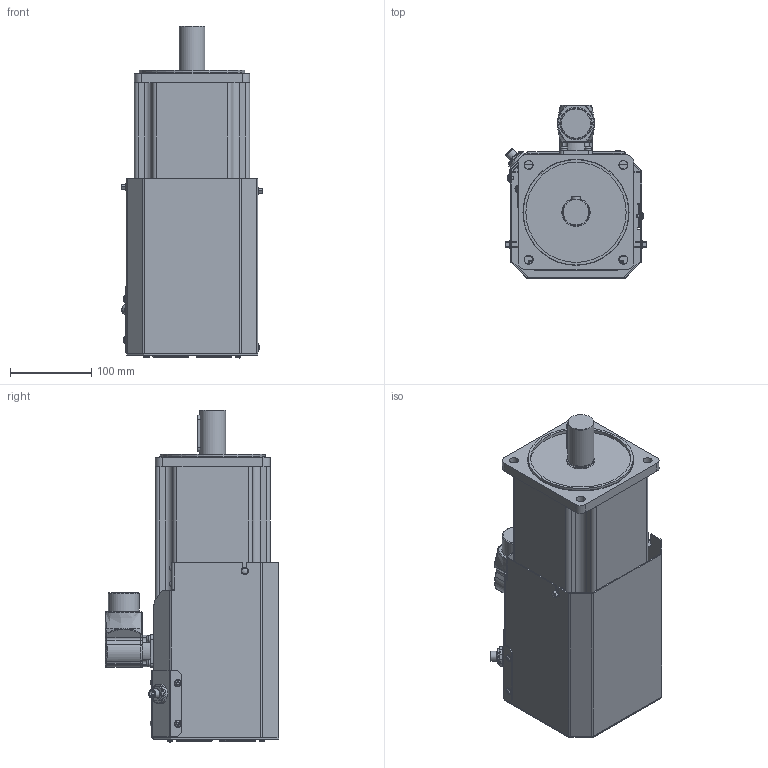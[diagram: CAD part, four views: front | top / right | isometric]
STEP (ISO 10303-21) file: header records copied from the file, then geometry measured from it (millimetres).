
FILE_DESCRIPTION(/* description */ (''),/* implementation_level */ '2;1');
FILE_NAME(/* name */ 'C:\Autodesk Vault\AUTODESK_VAULT\CAD\000-FERTIG Motors\BM140\_Gesamtbaugruppen\vereinfachte_Modelle\Lüfter\AM8062-xR1B-xxx0.stp',/* time_stamp */ '2016-11-08T11:38:56+01:00',/* author */ ('JohannesD'),/* organization */ ('FERTIG Motors '),/* preprocessor_version */ 'ST-DEVELOPER v16.1',/* originating_system */ 'Autodesk Inventor 2016',/* authorisation */ '');
FILE_SCHEMA (('CONFIG_CONTROL_DESIGN'));
Products named in the file (5): Intercontec-CED_271_0020_VM; DIN 6885 - A 10 x 8 x 45; BM140-VM-00; BM140Lüfter-VM; BM140-S-B0_VM_Lüfter_RV2016
Assembly tree (4 placements, depth 2):
  BM140-S-B0_VM_Lüfter_RV2016
    Intercontec-CED_271_0020_VM
    DIN 6885 - A 10 x 8 x 45
    BM140-VM-00
    BM140Lüfter-VM
Bounding box: 174.51 x 214.12 x 409.5 mm (x, y, z)
Volume: 5719260.5 mm3; surface area: 569885.6 mm2
Topology: 6 solids, 17 shells, 1705 faces, 4338 edges, 2667 vertices
Faces by surface type: plane 839, cylinder 467, bspline 177, torus 136, cone 56, sphere 30
Full cylindrical faces by diameter (mm): 0.8 x1, 1 x4, 1.8 x4, 2.15 x1, 2.921 x1, 3.242 x2, 3.632 x1, 4 x26, 4.3 x4, 4.5 x8, 4.8 x13, 7 x8, 8 x4, 8.3 x1, 8.85 x9, 9 x4, 10.7 x1, 11 x4, 12 x1, 12.002 x1, 13 x1, 17 x1, 19.1 x1, 20.1 x1, 23 x1, 27 x1, 28.025 x1, 31 x1, 31.4 x1, 32 x1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
Entity records: 53784 total; most frequent: CARTESIAN_POINT 12671, DIRECTION 8088, ORIENTED_EDGE 7992, EDGE_CURVE 3996, AXIS2_PLACEMENT_3D 2967, VERTEX_POINT 2596, LINE 2154, VECTOR 2154
